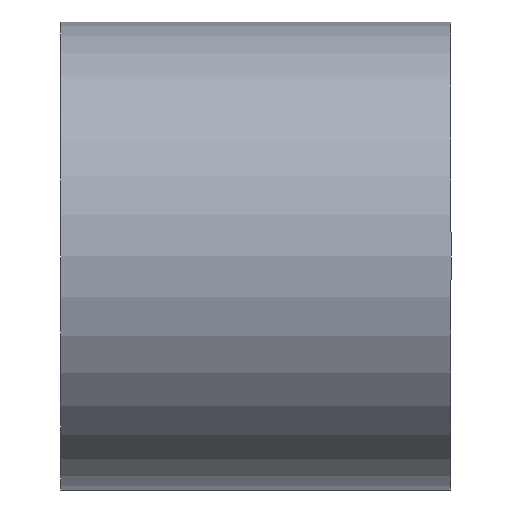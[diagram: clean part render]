
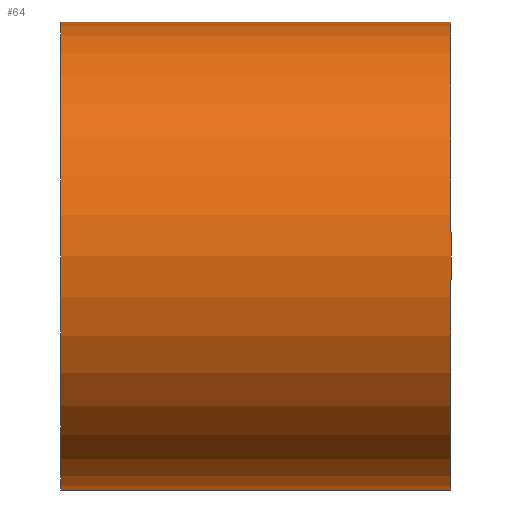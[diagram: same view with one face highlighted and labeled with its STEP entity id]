
A CAD part, front view. The second image highlights one B-rep face of the part: STEP entity #64.
In plain terms, the highlighted cylindrical face has radius 54 mm (diameter 108 mm), a full revolution.
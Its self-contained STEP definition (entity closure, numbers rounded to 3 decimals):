
#21=FACE_OUTER_BOUND('',#27,.T.);
#27=EDGE_LOOP('',(#54,#55,#56,#57));
#31=LINE('',#134,#33);
#33=VECTOR('',#116,54.);
#36=CIRCLE('',#94,54.);
#37=CIRCLE('',#96,54.);
#40=VERTEX_POINT('',#129);
#41=VERTEX_POINT('',#132);
#45=EDGE_CURVE('',#40,#40,#36,.T.);
#46=EDGE_CURVE('',#41,#41,#37,.T.);
#47=EDGE_CURVE('',#41,#40,#31,.T.);
#54=ORIENTED_EDGE('',*,*,#46,.F.);
#55=ORIENTED_EDGE('',*,*,#47,.T.);
#56=ORIENTED_EDGE('',*,*,#45,.T.);
#57=ORIENTED_EDGE('',*,*,#47,.F.);
#61=CYLINDRICAL_SURFACE('',#95,54.);
#64=ADVANCED_FACE('',(#21),#61,.T.);
#94=AXIS2_PLACEMENT_3D('',#130,#110,#111);
#95=AXIS2_PLACEMENT_3D('',#131,#112,#113);
#96=AXIS2_PLACEMENT_3D('',#133,#114,#115);
#110=DIRECTION('center_axis',(-1.,0.,0.));
#111=DIRECTION('ref_axis',(0.,0.,1.));
#112=DIRECTION('center_axis',(-1.,0.,0.));
#113=DIRECTION('ref_axis',(0.,1.,0.));
#114=DIRECTION('center_axis',(-1.,0.,0.));
#115=DIRECTION('ref_axis',(0.,0.,1.));
#116=DIRECTION('',(1.,0.,0.));
#129=CARTESIAN_POINT('',(90.,-54.,0.));
#130=CARTESIAN_POINT('Origin',(90.,0.,0.));
#131=CARTESIAN_POINT('Origin',(45.,0.,0.));
#132=CARTESIAN_POINT('',(0.,-54.,0.));
#133=CARTESIAN_POINT('Origin',(0.,0.,
0.));
#134=CARTESIAN_POINT('',(45.,-54.,0.));
